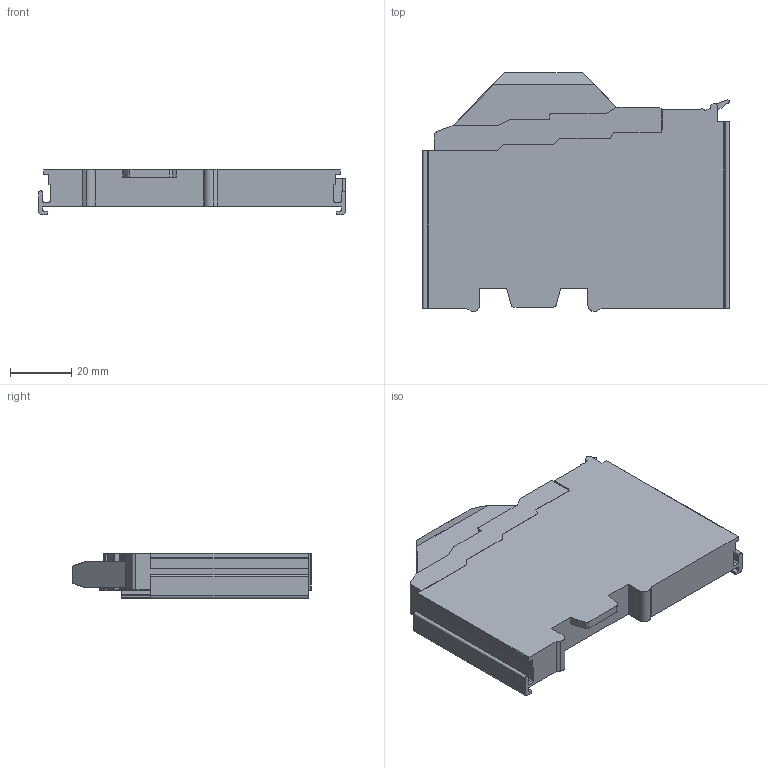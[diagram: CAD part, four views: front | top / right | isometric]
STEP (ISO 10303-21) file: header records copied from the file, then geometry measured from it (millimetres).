
FILE_DESCRIPTION(/* description */ ('EtherCAT-Klemme 12 mm abnehmbare Fronthaube'),/* implementation_level */ '2;1');
FILE_NAME(/* name */ 'ethercat_terminal_12mm_removable_front_cover.stp',/* time_stamp */ '2026-03-18T13:56:57+01:00',/* author */ ('LarsSo'),/* organization */ (''),/* preprocessor_version */ 'ST-DEVELOPER v20',/* originating_system */ 'Autodesk Inventor 2024',/* authorisation */ '');
FILE_SCHEMA (('AUTOMOTIVE_DESIGN { 1 0 10303 214 3 1 1 }'));
Length unit declared in the file: millimetre
Products named in the file (1): 0000018457_EL6072_vereinfacht_für_CAD-Download
Bounding box: 100 x 77.9 x 14.8 mm (x, y, z)
Volume: 74355.4 mm3; surface area: 19865.5 mm2
Topology: 1 solids, 1 shells, 165 faces, 470 edges, 302 vertices
Faces by surface type: plane 105, cylinder 52, sphere 8
Entity records: 5376 total; most frequent: ORIENTED_EDGE 940, CARTESIAN_POINT 938, DIRECTION 911, EDGE_CURVE 470, LINE 361, VECTOR 361, VERTEX_POINT 302, AXIS2_PLACEMENT_3D 275
